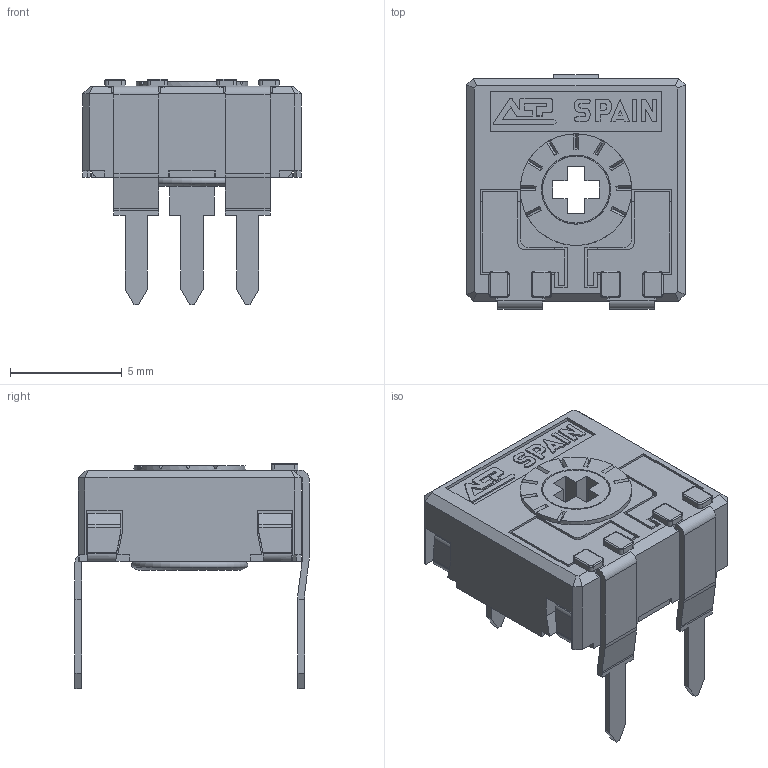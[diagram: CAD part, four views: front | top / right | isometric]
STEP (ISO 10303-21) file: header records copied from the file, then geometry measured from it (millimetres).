
FILE_DESCRIPTION(/* description */ (''),/* implementation_level */ '2;1');
FILE_NAME(/* name */ 'C:\Users\CEM\Desktop\ENVIAR\TRANSICION 3D CATALOGOS\RS9RV10.stp',/* time_stamp */ '2025-11-26T17:33:44+01:00',/* author */ ('CEM'),/* organization */ (''),/* preprocessor_version */ 'ST-DEVELOPER v16.13',/* originating_system */ 'Autodesk Inventor 2018',/* authorisation */ '');
FILE_SCHEMA (('AUTOMOTIVE_DESIGN { 1 0 10303 214 3 1 1 }'));
Length unit declared in the file: millimetre
Products named in the file (1): RS9RV10
Bounding box: 9.8 x 10.5 x 10.1 mm (x, y, z)
Volume: 248.1 mm3; surface area: 871.3 mm2
Topology: 2 solids, 2 shells, 614 faces, 1744 edges, 1119 vertices
Faces by surface type: plane 486, cylinder 93, torus 19, cone 16
Full cylindrical faces by diameter (mm): 3 x1, 3.1 x1, 4 x1, 4.8 x1, 5 x1
Entity records: 19842 total; most frequent: CARTESIAN_POINT 3511, ORIENTED_EDGE 3462, DIRECTION 3220, EDGE_CURVE 1729, LINE 1416, VECTOR 1416, VERTEX_POINT 1115, AXIS2_PLACEMENT_3D 902
